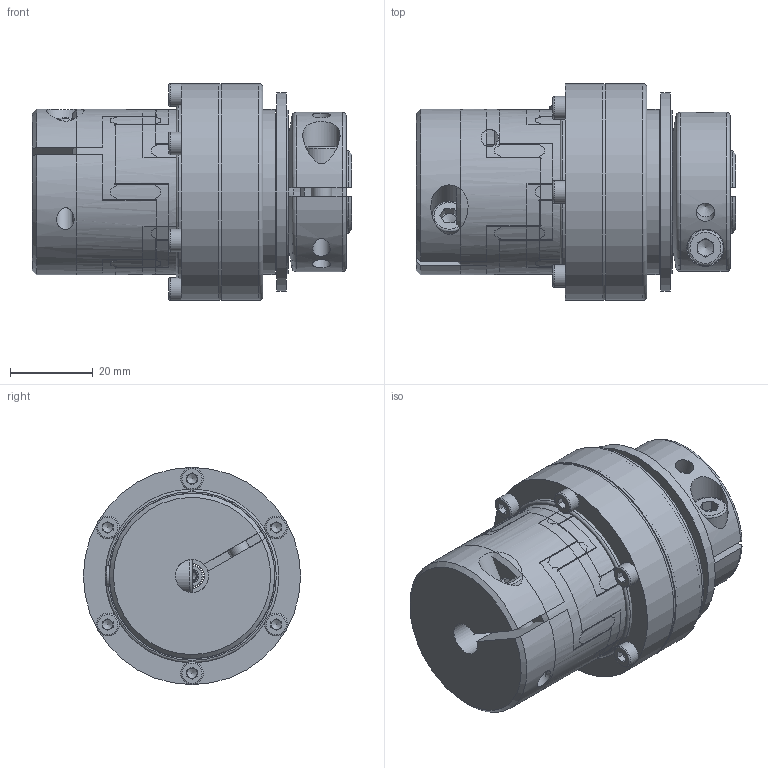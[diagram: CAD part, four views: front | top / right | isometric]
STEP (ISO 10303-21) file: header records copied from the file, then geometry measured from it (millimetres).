
FILE_DESCRIPTION( ( 'Unknown' ), '1' );
FILE_NAME( 'F:/JAKOB-STEP+IGES-Dateien/STEP-Dateien/SKB-EK/SKB-EK 6.stp', 'Unknown', ( 'Unknown' ), ( 'Unknown' ), 'XStep 1.0', 'Unknown', ' ' );
FILE_SCHEMA( ( 'CONFIG_CONTROL_DESIGN' ) );
Length unit declared in the file: millimetre
Products named in the file (15): Assem1; SKB 6; 23917257; KT101911; KT102579; KT102397; KT100050; Elastomerteil 1; kt102551
Bounding box: 77.2 x 52.5 x 52.5 mm (x, y, z)
Surface area: 118722.8 mm2
Topology: 33 solids, 33 shells, 1225 faces, 3282 edges, 2101 vertices
Faces by surface type: plane 483, cylinder 398, cone 181, torus 133, sphere 30
Full cylindrical faces by diameter (mm): 1.5 x6, 2.5 x18, 3 x24, 3.3 x3, 3.4 x12, 4 x3, 4.2 x5, 4.5 x9, 5 x4, 5.4 x2, 5.5 x15, 6 x3, 8.5 x4, 9 x5, 9.5 x2, 18 x4, 19 x3, 19.9 x3, 20 x6, 24 x2, 25 x3, 25.4 x3, 27.2 x6, 35.1 x6, 37.6 x6, 39.6 x3, 39.9 x3, 40 x2, 42 x8, 48 x3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
Entity records: 16760 total; most frequent: CARTESIAN_POINT 4314, DIRECTION 2494, ORIENTED_EDGE 2286, EDGE_CURVE 1143, AXIS2_PLACEMENT_3D 1044, VERTEX_POINT 796, EDGE_LOOP 708, FACE_OUTER_BOUND 586
